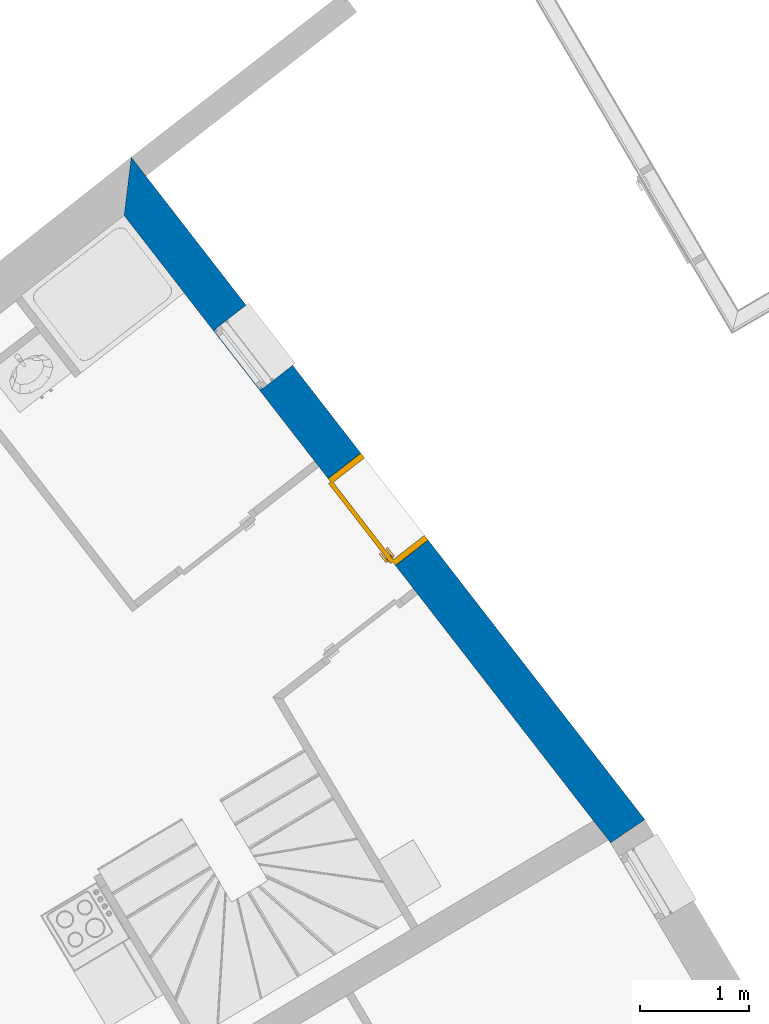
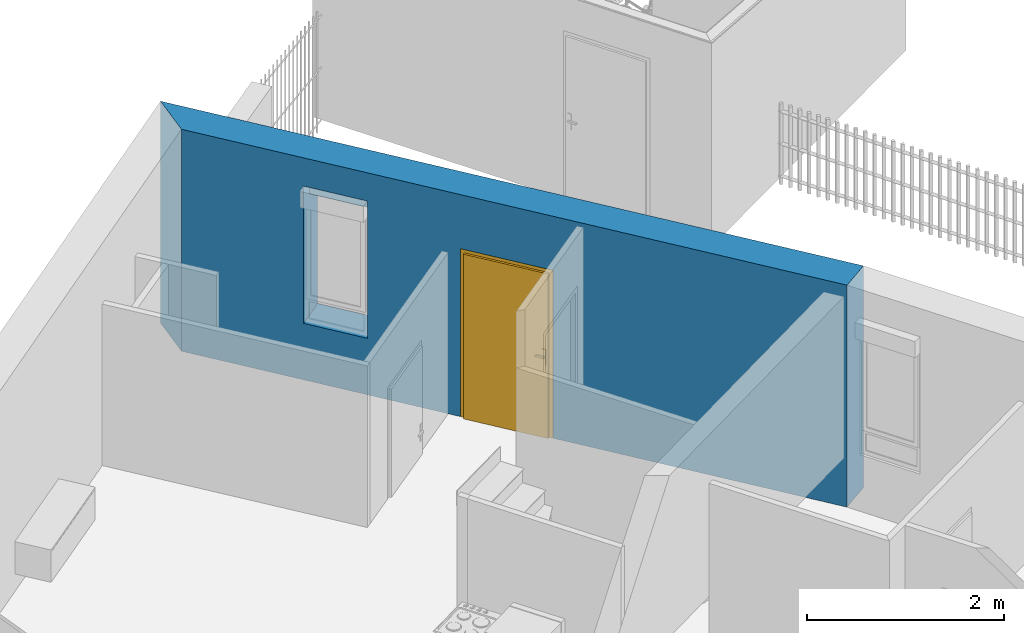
# One storey, part 44 of 195: 1 door, 1 wall, 2 openings.
"""IFC2X3 building model written with IfcOpenShell, lengths in metres."""

from ifc_helpers import new_model, entity, si_unit, converted_unit, derived_unit, money_unit, direction, frame, origin_with_axes, origin_2d_with_axis, place, context, subcontext, project, spatial, polyline, rectangle, outline, extrude, faceted_brep, source, transform, mapped, material, layer, layer_set, layer_usage, type_object, element, fill, save


model = new_model("IFC2X3")

# Units and contexts
model_context = context("Model", 3, precision=1e-05, world=origin_with_axes(), true_north=direction((0.0, 1.0)))
body_context = subcontext(model_context, "Body", "Model", "MODEL_VIEW")
ifc_project = project(units=[si_unit("LENGTHUNIT", "METRE"), si_unit("AREAUNIT", "SQUARE_METRE"), si_unit("VOLUMEUNIT", "CUBIC_METRE"), converted_unit("PLANEANGLEUNIT", "DEGREE", entity("IfcPlaneAngleMeasure", 0.0174532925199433), si_unit("PLANEANGLEUNIT", "RADIAN"), dimensions=[0, 0, 0, 0, 0, 0, 0]), money_unit("CHF"), converted_unit("TIMEUNIT", "Year", entity("IfcTimeMeasure", 31557600.0), si_unit("TIMEUNIT", "SECOND"), dimensions=[0, 0, 1, 0, 0, 0, 0]), si_unit("MASSUNIT", "GRAM", prefix="KILO"), si_unit("THERMODYNAMICTEMPERATUREUNIT", "DEGREE_CELSIUS"), si_unit("LUMINOUSINTENSITYUNIT", "LUMEN"), si_unit("ENERGYUNIT", "JOULE", prefix="MEGA"), derived_unit("THERMALCONDUCTANCEUNIT", [(si_unit("POWERUNIT", "WATT"), 1), (si_unit("LENGTHUNIT", "METRE"), -1), (si_unit("THERMODYNAMICTEMPERATUREUNIT", "KELVIN"), -1)]), derived_unit("SPECIFICHEATCAPACITYUNIT", [(si_unit("ENERGYUNIT", "JOULE"), 1), (si_unit("MASSUNIT", "GRAM", prefix="KILO"), -1), (si_unit("THERMODYNAMICTEMPERATUREUNIT", "KELVIN"), -1)]), derived_unit("MASSDENSITYUNIT", [(si_unit("MASSUNIT", "GRAM", prefix="KILO"), 1), (si_unit("VOLUMEUNIT", "CUBIC_METRE"), -1)])], contexts=[model_context])

# Site, building, storey
site_placement = place(None, origin_with_axes())
site = spatial("IfcSite", under=ifc_project, at=site_placement, Name="Site", CompositionType="ELEMENT")
building_placement = place(site_placement, origin_with_axes())
building = spatial("IfcBuilding", under=site, at=building_placement, Name="Bâtiment", CompositionType="ELEMENT")
storey_placement = place(building_placement, origin_with_axes())
storey = spatial("IfcBuildingStorey", under=building, at=storey_placement, Name="rdc", CompositionType="ELEMENT", Elevation=0.0)

# Wall, openings, door
ifc_material_1 = material(Name="Parpaing 312445824")
ifc_layer_1 = layer(ifc_material_1, 0.22, ventilated="UNKNOWN")
ifc_material_2 = material(Name="Isolant styromousse 301821074")
ifc_layer_2 = layer(ifc_material_2, 0.16, ventilated="UNKNOWN")
ifc_layer_set = layer_set([ifc_layer_1, ifc_layer_2], Name="isol int 22+16 0836643197")
ifc_layer_usage = layer_usage(ifc_layer_set, "AXIS2", "POSITIVE", 0.0)
wall_type = type_object("IfcWallType", Name="isol int 22+16 0836643197 380", PredefinedType="NOTDEFINED")
wall_placement = place(storey_placement, frame((9545.059673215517, -1043.279196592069, 57.7), z_axis=(0.0, 0.0, 1.0), x_axis=(-0.6127569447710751, 0.7902714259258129, 0.0)))
wall = element("IfcWallStandardCase", 1, at=wall_placement, inside=storey, type_object=wall_type, material=ifc_layer_usage, Name="Mur-112", context=body_context, shape_type="SweptSolid", body=[
    extrude(outline(polyline([(0.0, 0.0), (7.703755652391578, 0.0), (7.32020761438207, 0.3799999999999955), (0.02325286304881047, 0.3799999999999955), (0.0, 0.0)])), origin_with_axes(), (0.0, 0.0, 1.0), 2.75),
])
opening_1_placement = place(wall_placement, frame((5.632078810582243, 0.0, 0.7000000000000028), z_axis=(0.0, 0.0, 1.0), x_axis=(1.0, 0.0, 0.0)))
element("IfcOpeningElement", 2, at=opening_1_placement, cuts=wall, Name="Fen-050", context=body_context, shape_type="Brep", body=[
    faceted_brep([(0.3499999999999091, 0.220000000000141, 1.5), (-0.3500000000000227, 0.220000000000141, 1.5), (-0.3500000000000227, -3.731499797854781, 1.5), (0.3500000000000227, -3.731499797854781, 1.5), (0.3499999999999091, 0.220000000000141, 1.700000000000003), (-0.3500000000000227, 0.220000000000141, 1.700000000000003), (-0.3500000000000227, 0.2999999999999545, 1.5), (-0.3500000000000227, 0.2999999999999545, 0.0), (-0.3500000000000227, -3.731499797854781, 0.0), (0.3500000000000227, -3.731499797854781, 0.0), (0.3499999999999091, 0.3000000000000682, 1.5), (0.3499999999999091, 0.3000000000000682, 0.0), (0.3499999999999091, 0.4800000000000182, 1.5), (0.3499999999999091, 0.4800000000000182, 1.700000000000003), (-0.3500000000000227, 0.4800000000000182, 1.700000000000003), (-0.3500000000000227, 0.4800000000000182, 1.5), (-0.3500000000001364, 4.11149979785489, 1.5), (-0.3500000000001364, 4.11149979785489, 0.0), (0.3500000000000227, 4.111499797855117, 0.0), (0.3500000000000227, 4.111499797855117, 1.5)], [[[0, 1, 2, 3]], [[1, 0, 4, 5]], [[1, 6, 7, 8, 2]], [[2, 8, 9, 3]], [[10, 0, 3, 9, 11]], [[0, 10, 12, 13, 4]], [[4, 13, 14, 5]], [[6, 1, 5, 14, 15]], [[6, 15, 16, 17, 7]], [[7, 11, 9, 8]], [[12, 10, 11, 18, 19]], [[12, 15, 14, 13]], [[15, 12, 19, 16]], [[19, 18, 17, 16]], [[11, 7, 17, 18]]]),
])
opening_2_placement = place(wall_placement, frame((3.75502269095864, 0.0, 0.0), z_axis=(0.0, 0.0, 1.0), x_axis=(1.0, 0.0, 0.0)))
opening_2 = element("IfcOpeningElement", 3, at=opening_2_placement, cuts=wall, Name="Por-300", context=body_context, shape_type="SweptSolid", body=[
    extrude(rectangle(XDim=1.01000001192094, YDim=2.079999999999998, at=origin_2d_with_axis()), frame((5.960487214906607e-09, -0.3799999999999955, 1.039999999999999), z_axis=(0.0, 1.0, 0.0), x_axis=(1.0, 0.0, 0.0)), (0.0, 0.0, 1.0), 0.76),
])
door_style = type_object("IfcDoorStyle", Name="Porte_1v", ConstructionType="NOTDEFINED", OperationType="NOTDEFINED", ParameterTakesPrecedence=False, Sizeable=False)
shared_shape = source(origin_with_axes(), body_context, "Body", "Brep", [
    faceted_brep([(0.5049999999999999, 0.0, 0.0), (0.465, 0.0, 0.0), (0.4649999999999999, 0.0, 2.04), (-0.4649999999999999, 0.0, 2.04), (-0.465, 0.0, 0.0), (-0.5049999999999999, 0.0, 0.0), (-0.5049999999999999, 0.0, 2.08), (0.5049999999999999, 0.0, 2.08), (0.5049999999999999, -0.38, 0.0), (0.45, -0.3799999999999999, 0.0), (0.45, -0.01500000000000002, 0.0), (0.465, -0.01500000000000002, 0.0), (0.4649999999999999, -0.01500000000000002, 2.04), (-0.4649999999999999, -0.01499999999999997, 2.04), (-0.465, -0.01499999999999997, 0.0), (-0.45, -0.01499999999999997, 0.0), (-0.45, -0.3799999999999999, 0.0), (-0.5049999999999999, -0.3799999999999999, 0.0), (-0.5049999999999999, -0.3799999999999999, 2.08), (0.5049999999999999, -0.38, 2.08), (-0.45, -0.3799999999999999, 2.025), (0.45, -0.3799999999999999, 2.025), (0.45, -0.01500000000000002, 2.025), (-0.45, -0.01499999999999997, 2.025)], [[[0, 1, 2, 3, 4, 5, 6, 7]], [[0, 8, 9, 10, 11, 1]], [[1, 11, 12, 2]], [[2, 12, 13, 3]], [[3, 13, 14, 4]], [[5, 4, 14, 15, 16, 17]], [[18, 6, 5, 17]], [[19, 7, 6, 18]], [[8, 0, 7, 19]], [[9, 8, 19, 18, 17, 16, 20, 21]], [[10, 9, 21, 22]], [[11, 10, 22, 23, 15, 14, 13, 12]], [[23, 20, 16, 15]], [[22, 21, 20, 23]]]),
    faceted_brep([(-0.4, -0.01499999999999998, 0.9), (-0.4399999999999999, -0.01499999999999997, 0.9), (-0.4399999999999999, -0.01499999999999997, 1.1), (-0.4, -0.01499999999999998, 1.1), (-0.4, -0.02499999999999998, 0.9), (-0.4399999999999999, -0.02499999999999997, 0.9), (-0.4399999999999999, -0.02499999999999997, 1.1), (-0.4, -0.02499999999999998, 1.1)], [[[0, 1, 2, 3]], [[1, 0, 4, 5]], [[2, 1, 5, 6]], [[3, 2, 6, 7]], [[0, 3, 7, 4]], [[5, 4, 7, 6]]]),
    faceted_brep([(-0.3299999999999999, -0.02499999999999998, 1.0), (-0.4299999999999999, -0.02499999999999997, 1.0), (-0.4299999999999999, -0.02499999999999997, 1.02), (-0.3299999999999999, -0.02499999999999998, 1.02), (-0.3299999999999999, -0.04499999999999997, 1.0), (-0.4299999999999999, -0.04499999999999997, 1.0), (-0.4299999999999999, -0.04499999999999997, 1.02), (-0.3299999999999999, -0.04499999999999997, 1.02)], [[[0, 1, 2, 3]], [[1, 0, 4, 5]], [[2, 1, 5, 6]], [[3, 2, 6, 7]], [[0, 3, 7, 4]], [[5, 4, 7, 6]]]),
    faceted_brep([(-0.4, 0.03500000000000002, 0.9), (-0.4399999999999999, 0.03500000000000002, 0.9), (-0.4399999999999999, 0.03500000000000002, 1.1), (-0.4, 0.03500000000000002, 1.1), (-0.4, 0.02500000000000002, 0.9), (-0.4399999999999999, 0.02500000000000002, 0.9), (-0.4399999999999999, 0.02500000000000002, 1.1), (-0.4, 0.02500000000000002, 1.1)], [[[0, 1, 2, 3]], [[1, 0, 4, 5]], [[2, 1, 5, 6]], [[3, 2, 6, 7]], [[0, 3, 7, 4]], [[5, 4, 7, 6]]]),
    faceted_brep([(-0.3299999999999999, 0.05500000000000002, 1.0), (-0.4299999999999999, 0.05500000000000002, 1.0), (-0.4299999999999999, 0.05500000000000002, 1.02), (-0.3299999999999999, 0.05500000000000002, 1.02), (-0.3299999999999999, 0.03500000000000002, 1.0), (-0.4299999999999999, 0.03500000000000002, 1.0), (-0.4299999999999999, 0.03500000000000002, 1.02), (-0.3299999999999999, 0.03500000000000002, 1.02)], [[[0, 1, 2, 3]], [[1, 0, 4, 5]], [[2, 1, 5, 6]], [[3, 2, 6, 7]], [[0, 3, 7, 4]], [[5, 4, 7, 6]]]),
    faceted_brep([(-0.465, 0.02500000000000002, 0.0), (0.465, 0.02499999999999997, 0.0), (0.465, -0.01500000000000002, 0.0), (-0.465, -0.01499999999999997, 0.0), (-0.465, 0.02500000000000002, 2.04), (0.465, 0.02499999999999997, 2.04), (0.465, -0.01500000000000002, 2.04), (-0.465, -0.01499999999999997, 2.04)], [[[0, 1, 2, 3]], [[0, 4, 5, 1]], [[1, 5, 6, 2]], [[3, 2, 6, 7]], [[4, 0, 3, 7]], [[5, 4, 7, 6]]]),
])
door_placement = place(opening_2_placement, frame((-0.4649999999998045, 0.0, 0.0), z_axis=(0.0, 0.0, 1.0), x_axis=(1.0, 0.0, 0.0)))
door = element("IfcDoor", 4, at=door_placement, inside=storey, type_object=door_style, Name="Por-300", OverallHeight=2.04, OverallWidth=0.93, context=body_context, shape_type="MappedRepresentation", body=[
    mapped(shared_shape, transform((0.4650000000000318, 0.3799999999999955, 0.0))),
])
fill(opening_2, door)

save(model, "model.ifc")
